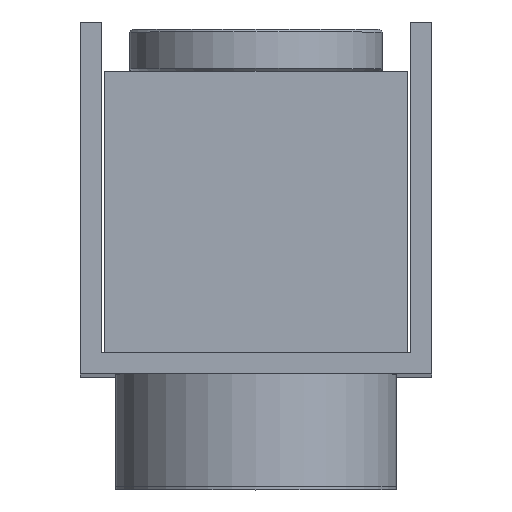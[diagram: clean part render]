
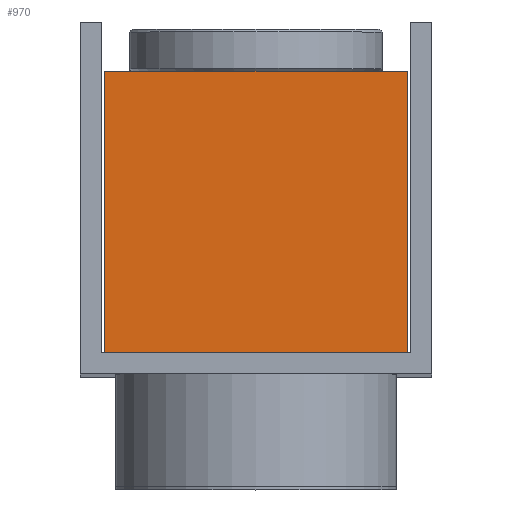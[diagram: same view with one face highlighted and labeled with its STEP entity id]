
A CAD part, top view. The second image highlights one B-rep face of the part: STEP entity #970.
In plain terms, the highlighted planar face has unit normal (0, 0, 1).
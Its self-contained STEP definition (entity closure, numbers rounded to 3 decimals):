
#75=PLANE('',#1066);
#124=FACE_OUTER_BOUND('',#191,.T.);
#191=EDGE_LOOP('',(#753,#754,#755,#756));
#276=LINE('',#1498,#363);
#284=LINE('',#1513,#371);
#285=LINE('',#1515,#372);
#286=LINE('',#1516,#373);
#363=VECTOR('',#1211,10.);
#371=VECTOR('',#1223,10.);
#372=VECTOR('',#1226,10.);
#373=VECTOR('',#1227,10.);
#479=VERTEX_POINT('',#1495);
#480=VERTEX_POINT('',#1497);
#484=VERTEX_POINT('',#1509);
#485=VERTEX_POINT('',#1511);
#578=EDGE_CURVE('',#479,#480,#276,.T.);
#586=EDGE_CURVE('',#484,#485,#284,.T.);
#587=EDGE_CURVE('',#479,#484,#285,.T.);
#588=EDGE_CURVE('',#480,#485,#286,.T.);
#753=ORIENTED_EDGE('',*,*,#587,.T.);
#754=ORIENTED_EDGE('',*,*,#586,.T.);
#755=ORIENTED_EDGE('',*,*,#588,.F.);
#756=ORIENTED_EDGE('',*,*,#578,.F.);
#970=ADVANCED_FACE('',(#124),#75,.T.);
#1066=AXIS2_PLACEMENT_3D('',#1514,#1224,#1225);
#1211=DIRECTION('',(0.,1.,0.));
#1223=DIRECTION('',(0.,1.,0.));
#1224=DIRECTION('center_axis',(0.,0.,1.));
#1225=DIRECTION('ref_axis',(1.,0.,0.));
#1226=DIRECTION('',(1.,0.,0.));
#1227=DIRECTION('',(1.,0.,0.));
#1495=CARTESIAN_POINT('',(-10.75,1.5,148.75));
#1497=CARTESIAN_POINT('',(-10.75,21.5,148.75));
#1498=CARTESIAN_POINT('',(-10.75,1.5,148.75));
#1509=CARTESIAN_POINT('',(10.75,1.5,148.75));
#1511=CARTESIAN_POINT('',(10.75,21.5,148.75));
#1513=CARTESIAN_POINT('',(10.75,1.5,148.75));
#1514=CARTESIAN_POINT('Origin',(-10.75,1.5,148.75));
#1515=CARTESIAN_POINT('',(-10.75,1.5,148.75));
#1516=CARTESIAN_POINT('',(-10.75,21.5,148.75));
